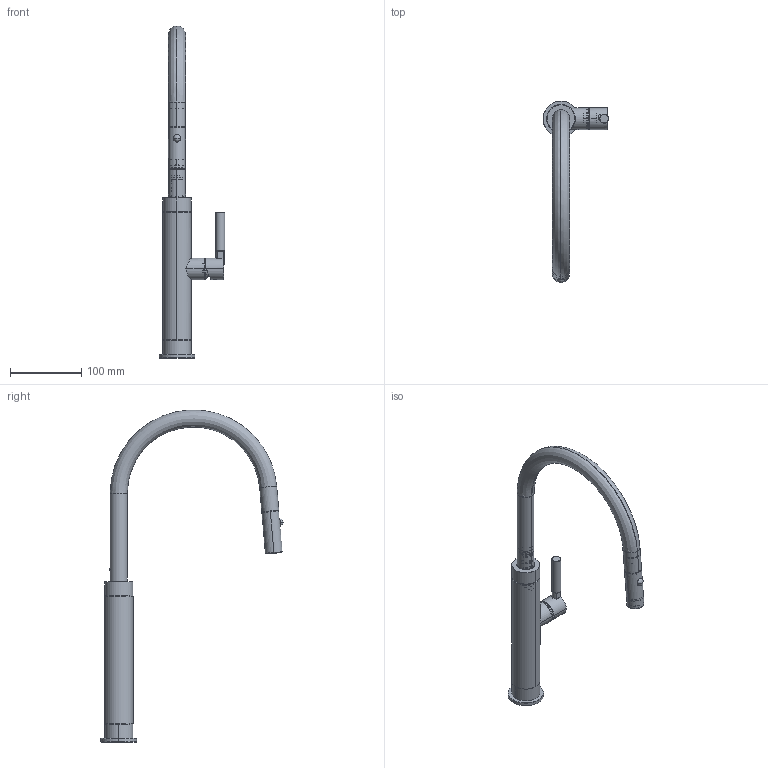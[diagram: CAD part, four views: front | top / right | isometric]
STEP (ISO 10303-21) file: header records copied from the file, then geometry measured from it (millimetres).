
FILE_DESCRIPTION(/* description */ (''),/* implementation_level */ '2;1');
FILE_NAME(/* name */ '3D001_Taps_Mythos-Masterpiece_Pull-Down-Spray',/* time_stamp */ '2024-03-12T15:20:47+01:00',/* author */ (''),/* organization */ (''),/* preprocessor_version */ 'ST-DEVELOPER v19.2',/* originating_system */ 'Rhino 8.3',/* authorisation */ '');
FILE_SCHEMA (('CONFIG_CONTROL_DESIGN'));
Products named in the file (24): Document; SGU152250; SBU050670; S_PRG_FR00423_0009_TUBO_EST; SPL350180; SGU150060; SMM256900; S_PRG_FR00423_0005_POMOLO; S_PRG_FR00423_0004_BIC; S_PRG_AB02122_0003; S_PRG_AB02122_0008; Blocco 04; S_PRG_AB02122_0004; SMN602580; SGU151580; SAC002270; S_PRG_FR00423_0008_DOC; SPL350840; S_PRG_FR00423_0007_CANNA; SGU150190; SGU151220; S_PRG_FR00423_0006_LEVA; SMM254650; SMM256890
Bounding box: 92.1 x 255.46 x 465.69 mm (x, y, z)
Volume: 150135.1 mm3; surface area: 179602.2 mm2
Topology: 61 solids, 76 shells, 3737 faces, 9458 edges, 6019 vertices
Faces by surface type: plane 2031, cylinder 1124, bspline 582
Entity records: 155047 total; most frequent: CARTESIAN_POINT 79560, ORIENTED_EDGE 18818, EDGE_CURVE 9445, B_SPLINE_CURVE_WITH_KNOTS 7442, DIRECTION 7289, VERTEX_POINT 6019, AXIS2_PLACEMENT_3D 5222, EDGE_LOOP 4010
